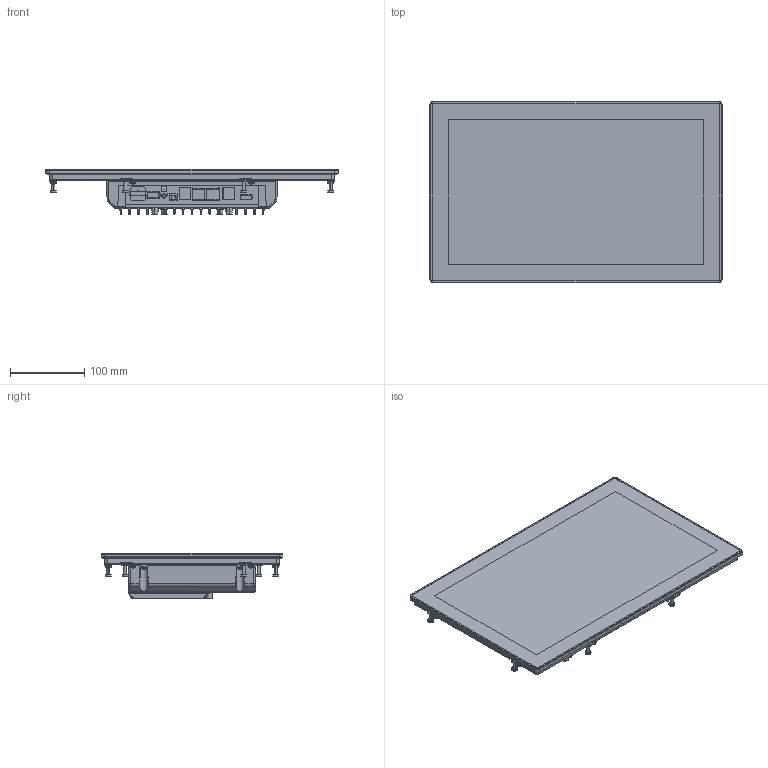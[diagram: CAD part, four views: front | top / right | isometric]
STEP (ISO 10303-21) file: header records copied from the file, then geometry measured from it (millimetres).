
FILE_DESCRIPTION (( 'STEP AP214' ), '1' );
FILE_NAME ('ET1520 (01-235-1520) Export20260312.STEP', '2026-03-12T12:11:52', ( '' ), ( '' ), 'SwSTEP 2.0', 'SolidWorks 2024', '' );
FILE_SCHEMA (( 'AUTOMOTIVE_DESIGN' ));
Length unit declared in the file: millimetre
Products named in the file (1): ET1520 (01-235-1520) Export20260312
Bounding box: 394.23 x 245.59 x 60.8 mm (x, y, z)
Volume: 2520695.6 mm3; surface area: 638341.5 mm2
Topology: 49 solids, 49 shells, 2198 faces, 5115 edges, 2982 vertices
Faces by surface type: cylinder 727, plane 590, bspline 354, torus 255, cone 244, sphere 28
Entity records: 104201 total; most frequent: CARTESIAN_POINT 32969, ORIENTED_EDGE 10058, DIRECTION 9715, EDGE_CURVE 5029, AXIS2_PLACEMENT_3D 3777, VERTEX_POINT 2982, EDGE_LOOP 2339, FACE_OUTER_BOUND 2198
